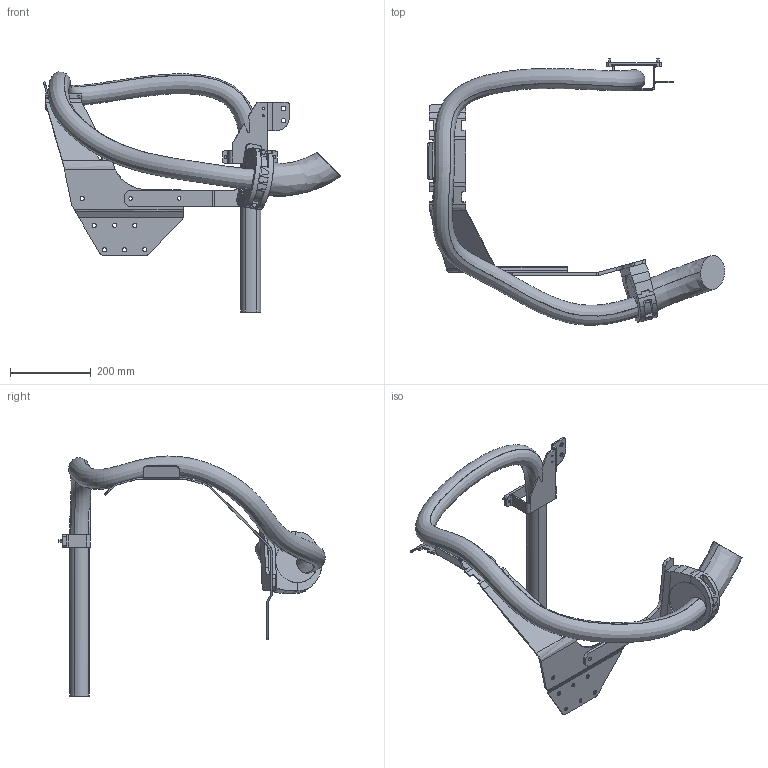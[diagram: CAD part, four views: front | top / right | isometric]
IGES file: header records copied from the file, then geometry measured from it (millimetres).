
Start section: SolidWorks IGES file using analytic representation for surfaces
Global section: file name: C:\Users\seamsto1\Desktop\Lättvikt\IRB6710-LID-SW_175kg-265_OC_00_SW_J\IRB6710-LID-SW_175kg-265_OC_00_IGES_J\IRB6710-LID-SW_175kg-265_OC_00_LINK01_CABLE.IGS; native system: SolidWorks 2020; preprocessor: SolidWorks 2020; author: SEAMSTO1; date: 230510.130424; units: millimetre
Bounding box: 736.17 x 660.11 x 594.58 mm (x, y, z)
Surface area: 662114.7 mm2 (no closed solid volume)
Topology: 0 solids, 0 shells, 398 faces, 5866 edges, 5866 vertices
Faces by surface type: bspline 237, revolution 161
